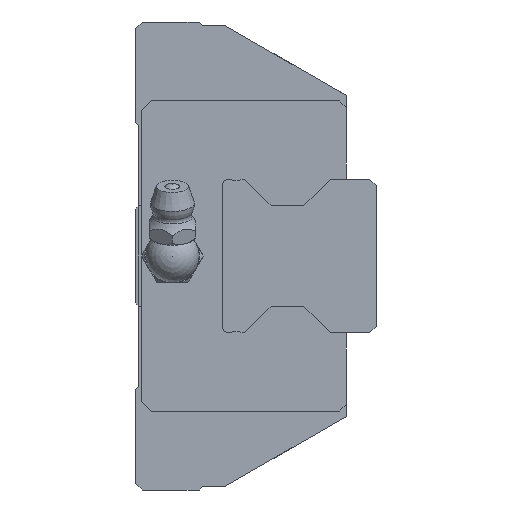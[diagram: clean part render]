
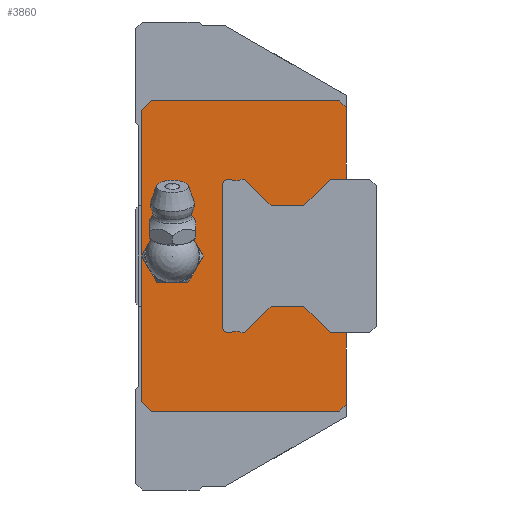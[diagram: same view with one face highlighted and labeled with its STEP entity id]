
A CAD part, left-side view. The second image highlights one B-rep face of the part: STEP entity #3860.
In plain terms, the highlighted planar face has unit normal (-1, 0, 0).
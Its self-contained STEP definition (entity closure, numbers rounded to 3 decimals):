
#183=CIRCLE('',#4178,3.);
#184=CIRCLE('',#4179,1.);
#185=CIRCLE('',#4180,1.);
#630=ORIENTED_EDGE('',*,*,#1551,.T.);
#631=ORIENTED_EDGE('',*,*,#1552,.T.);
#632=ORIENTED_EDGE('',*,*,#1541,.F.);
#633=ORIENTED_EDGE('',*,*,#1509,.F.);
#634=ORIENTED_EDGE('',*,*,#1505,.F.);
#635=ORIENTED_EDGE('',*,*,#1498,.F.);
#636=ORIENTED_EDGE('',*,*,#1530,.F.);
#637=ORIENTED_EDGE('',*,*,#1485,.F.);
#638=ORIENTED_EDGE('',*,*,#1519,.F.);
#639=ORIENTED_EDGE('',*,*,#1516,.F.);
#640=ORIENTED_EDGE('',*,*,#1543,.F.);
#641=ORIENTED_EDGE('',*,*,#1553,.T.);
#642=ORIENTED_EDGE('',*,*,#1554,.T.);
#643=ORIENTED_EDGE('',*,*,#1555,.T.);
#644=ORIENTED_EDGE('',*,*,#1556,.T.);
#645=ORIENTED_EDGE('',*,*,#1557,.T.);
#646=ORIENTED_EDGE('',*,*,#1558,.T.);
#647=ORIENTED_EDGE('',*,*,#1559,.T.);
#648=ORIENTED_EDGE('',*,*,#1560,.T.);
#649=ORIENTED_EDGE('',*,*,#1561,.T.);
#650=ORIENTED_EDGE('',*,*,#1562,.T.);
#651=ORIENTED_EDGE('',*,*,#1563,.T.);
#652=ORIENTED_EDGE('',*,*,#1564,.T.);
#653=ORIENTED_EDGE('',*,*,#1565,.T.);
#654=ORIENTED_EDGE('',*,*,#1566,.T.);
#655=ORIENTED_EDGE('',*,*,#1567,.T.);
#656=ORIENTED_EDGE('',*,*,#1568,.T.);
#1485=EDGE_CURVE('',#1978,#1979,#2346,.T.);
#1498=EDGE_CURVE('',#1990,#1991,#2359,.T.);
#1505=EDGE_CURVE('',#1991,#1996,#2365,.T.);
#1509=EDGE_CURVE('',#1996,#1998,#2369,.T.);
#1516=EDGE_CURVE('',#2004,#2005,#2376,.T.);
#1519=EDGE_CURVE('',#2005,#1978,#2379,.T.);
#1530=EDGE_CURVE('',#1979,#1990,#2385,.T.);
#1541=EDGE_CURVE('',#1998,#2014,#2394,.T.);
#1543=EDGE_CURVE('',#2019,#2004,#2396,.T.);
#1551=EDGE_CURVE('',#2026,#2026,#183,.T.);
#1552=EDGE_CURVE('',#2027,#2014,#2402,.T.);
#1553=EDGE_CURVE('',#2019,#2028,#2403,.T.);
#1554=EDGE_CURVE('',#2028,#2029,#2404,.T.);
#1555=EDGE_CURVE('',#2029,#2030,#2405,.T.);
#1556=EDGE_CURVE('',#2030,#2031,#2406,.T.);
#1557=EDGE_CURVE('',#2031,#2032,#2407,.T.);
#1558=EDGE_CURVE('',#2032,#2033,#2408,.T.);
#1559=EDGE_CURVE('',#2033,#2034,#2409,.T.);
#1560=EDGE_CURVE('',#2034,#2035,#184,.T.);
#1561=EDGE_CURVE('',#2035,#2036,#2410,.T.);
#1562=EDGE_CURVE('',#2036,#2037,#185,.T.);
#1563=EDGE_CURVE('',#2037,#2038,#2411,.T.);
#1564=EDGE_CURVE('',#2038,#2039,#2412,.T.);
#1565=EDGE_CURVE('',#2039,#2040,#2413,.T.);
#1566=EDGE_CURVE('',#2040,#2041,#2414,.T.);
#1567=EDGE_CURVE('',#2041,#2042,#2415,.T.);
#1568=EDGE_CURVE('',#2042,#2027,#2416,.T.);
#1978=VERTEX_POINT('',#5911);
#1979=VERTEX_POINT('',#5913);
#1990=VERTEX_POINT('',#5937);
#1991=VERTEX_POINT('',#5939);
#1996=VERTEX_POINT('',#5953);
#1998=VERTEX_POINT('',#5960);
#2004=VERTEX_POINT('',#5973);
#2005=VERTEX_POINT('',#5975);
#2014=VERTEX_POINT('',#6010);
#2019=VERTEX_POINT('',#6024);
#2026=VERTEX_POINT('',#6041);
#2027=VERTEX_POINT('',#6043);
#2028=VERTEX_POINT('',#6045);
#2029=VERTEX_POINT('',#6047);
#2030=VERTEX_POINT('',#6049);
#2031=VERTEX_POINT('',#6051);
#2032=VERTEX_POINT('',#6053);
#2033=VERTEX_POINT('',#6055);
#2034=VERTEX_POINT('',#6057);
#2035=VERTEX_POINT('',#6059);
#2036=VERTEX_POINT('',#6061);
#2037=VERTEX_POINT('',#6063);
#2038=VERTEX_POINT('',#6065);
#2039=VERTEX_POINT('',#6067);
#2040=VERTEX_POINT('',#6069);
#2041=VERTEX_POINT('',#6071);
#2042=VERTEX_POINT('',#6073);
#2346=LINE('',#5912,#2730);
#2359=LINE('',#5938,#2743);
#2365=LINE('',#5952,#2749);
#2369=LINE('',#5959,#2753);
#2376=LINE('',#5974,#2760);
#2379=LINE('',#5979,#2763);
#2385=LINE('',#6000,#2769);
#2394=LINE('',#6021,#2778);
#2396=LINE('',#6026,#2780);
#2402=LINE('',#6042,#2786);
#2403=LINE('',#6044,#2787);
#2404=LINE('',#6046,#2788);
#2405=LINE('',#6048,#2789);
#2406=LINE('',#6050,#2790);
#2407=LINE('',#6052,#2791);
#2408=LINE('',#6054,#2792);
#2409=LINE('',#6056,#2793);
#2410=LINE('',#6060,#2794);
#2411=LINE('',#6064,#2795);
#2412=LINE('',#6066,#2796);
#2413=LINE('',#6068,#2797);
#2414=LINE('',#6070,#2798);
#2415=LINE('',#6072,#2799);
#2416=LINE('',#6074,#2800);
#2730=VECTOR('',#4757,1000.);
#2743=VECTOR('',#4772,1000.);
#2749=VECTOR('',#4784,1000.);
#2753=VECTOR('',#4790,1000.);
#2760=VECTOR('',#4799,1000.);
#2763=VECTOR('',#4804,1000.);
#2769=VECTOR('',#4830,1000.);
#2778=VECTOR('',#4847,1000.);
#2780=VECTOR('',#4851,1000.);
#2786=VECTOR('',#4865,1000.);
#2787=VECTOR('',#4866,1000.);
#2788=VECTOR('',#4867,1000.);
#2789=VECTOR('',#4868,1000.);
#2790=VECTOR('',#4869,1000.);
#2791=VECTOR('',#4870,1000.);
#2792=VECTOR('',#4871,1000.);
#2793=VECTOR('',#4872,1000.);
#2794=VECTOR('',#4875,1000.);
#2795=VECTOR('',#4878,1000.);
#2796=VECTOR('',#4879,1000.);
#2797=VECTOR('',#4880,1000.);
#2798=VECTOR('',#4881,1000.);
#2799=VECTOR('',#4882,1000.);
#2800=VECTOR('',#4883,1000.);
#3078=EDGE_LOOP('',(#630));
#3079=EDGE_LOOP('',(#631,#632,#633,#634,#635,#636,#637,#638,#639,#640,#641,
#642,#643,#644,#645,#646,#647,#648,#649,#650,#651,#652,#653,#654,#655,#656));
#3405=FACE_BOUND('',#3078,.T.);
#3406=FACE_BOUND('',#3079,.T.);
#3675=PLANE('',#4177);
#3860=ADVANCED_FACE('',(#3405,#3406),#3675,.F.);
#4177=AXIS2_PLACEMENT_3D('',#6039,#4861,#4862);
#4178=AXIS2_PLACEMENT_3D('',#6040,#4863,#4864);
#4179=AXIS2_PLACEMENT_3D('',#6058,#4873,#4874);
#4180=AXIS2_PLACEMENT_3D('',#6062,#4876,#4877);
#4757=DIRECTION('',(0.,0.707,0.707));
#4772=DIRECTION('',(0.,-0.707,0.707));
#4784=DIRECTION('',(0.,-1.,0.));
#4790=DIRECTION('',(0.,-0.707,-0.707));
#4799=DIRECTION('',(0.,0.707,-0.707));
#4804=DIRECTION('',(0.,1.,0.));
#4830=DIRECTION('',(0.,0.,1.));
#4847=DIRECTION('',(0.,0.,-1.));
#4851=DIRECTION('',(0.,0.,-1.));
#4861=DIRECTION('',(1.,0.,0.));
#4862=DIRECTION('',(0.,0.,-1.));
#4863=DIRECTION('',(1.,0.,0.));
#4864=DIRECTION('',(0.,0.,-1.));
#4865=DIRECTION('',(0.,-1.,0.));
#4866=DIRECTION('',(0.,1.,0.));
#4867=DIRECTION('',(0.,0.707,0.707));
#4868=DIRECTION('',(0.,1.,0.));
#4869=DIRECTION('',(0.,0.707,-0.707));
#4870=DIRECTION('',(0.,1.,0.));
#4871=DIRECTION('',(0.,0.707,0.707));
#4872=DIRECTION('',(0.,1.,0.));
#4873=DIRECTION('',(1.,0.,0.));
#4874=DIRECTION('',(0.,0.,-1.));
#4875=DIRECTION('',(0.,0.,1.));
#4876=DIRECTION('',(1.,0.,0.));
#4877=DIRECTION('',(0.,0.,-1.));
#4878=DIRECTION('',(0.,-1.,0.));
#4879=DIRECTION('',(0.,-0.707,0.707));
#4880=DIRECTION('',(0.,-1.,0.));
#4881=DIRECTION('',(0.,-0.707,-0.707));
#4882=DIRECTION('',(0.,-1.,0.));
#4883=DIRECTION('',(0.,-0.707,0.707));
#5911=CARTESIAN_POINT('',(-57.55,29.2,-23.2));
#5912=CARTESIAN_POINT('',(-57.55,29.2,-23.2));
#5913=CARTESIAN_POINT('',(-57.55,30.7,-21.7));
#5937=CARTESIAN_POINT('',(-57.55,30.7,21.7));
#5938=CARTESIAN_POINT('',(-57.55,30.7,21.7));
#5939=CARTESIAN_POINT('',(-57.55,29.2,23.2));
#5952=CARTESIAN_POINT('',(-57.55,29.2,23.2));
#5953=CARTESIAN_POINT('',(-57.55,1.,23.2));
#5959=CARTESIAN_POINT('',(-57.55,1.,23.2));
#5960=CARTESIAN_POINT('',(-57.55,0.,22.2));
#5973=CARTESIAN_POINT('',(-57.55,0.,-22.2));
#5974=CARTESIAN_POINT('',(-57.55,0.,-22.2));
#5975=CARTESIAN_POINT('',(-57.55,1.,-23.2));
#5979=CARTESIAN_POINT('',(-57.55,1.,-23.2));
#6000=CARTESIAN_POINT('',(-57.55,30.7,-21.7));
#6010=CARTESIAN_POINT('',(-57.55,0.,11.5));
#6021=CARTESIAN_POINT('',(-57.55,0.,22.2));
#6024=CARTESIAN_POINT('',(-57.55,0.,-11.5));
#6026=CARTESIAN_POINT('',(-57.55,0.,22.2));
#6039=CARTESIAN_POINT('',(-57.55,0.,0.));
#6040=CARTESIAN_POINT('',(-57.55,26.,0.));
#6041=CARTESIAN_POINT('',(-57.55,26.,-3.));
#6042=CARTESIAN_POINT('',(-57.55,2.35,11.5));
#6043=CARTESIAN_POINT('',(-57.55,2.35,11.5));
#6044=CARTESIAN_POINT('',(-57.55,-3.5,-11.5));
#6045=CARTESIAN_POINT('',(-57.55,2.35,-11.5));
#6046=CARTESIAN_POINT('',(-57.55,2.35,-11.5));
#6047=CARTESIAN_POINT('',(-57.55,6.35,-7.5));
#6048=CARTESIAN_POINT('',(-57.55,6.35,-7.5));
#6049=CARTESIAN_POINT('',(-57.55,11.25,-7.5));
#6050=CARTESIAN_POINT('',(-57.55,11.25,-7.5));
#6051=CARTESIAN_POINT('',(-57.55,15.25,-11.5));
#6052=CARTESIAN_POINT('',(-57.55,15.25,-11.5));
#6053=CARTESIAN_POINT('',(-57.55,15.76,-11.5));
#6054=CARTESIAN_POINT('',(-57.55,15.76,-11.5));
#6055=CARTESIAN_POINT('',(-57.55,16.01,-11.25));
#6056=CARTESIAN_POINT('',(-57.55,16.01,-11.25));
#6057=CARTESIAN_POINT('',(-57.55,16.839,-11.25));
#6058=CARTESIAN_POINT('',(-57.55,17.5,-10.5));
#6059=CARTESIAN_POINT('',(-57.55,18.5,-10.5));
#6060=CARTESIAN_POINT('',(-57.55,18.5,-10.5));
#6061=CARTESIAN_POINT('',(-57.55,18.5,10.5));
#6062=CARTESIAN_POINT('',(-57.55,17.5,10.5));
#6063=CARTESIAN_POINT('',(-57.55,16.839,11.25));
#6064=CARTESIAN_POINT('',(-57.55,16.839,11.25));
#6065=CARTESIAN_POINT('',(-57.55,16.01,11.25));
#6066=CARTESIAN_POINT('',(-57.55,16.01,11.25));
#6067=CARTESIAN_POINT('',(-57.55,15.76,11.5));
#6068=CARTESIAN_POINT('',(-57.55,15.76,11.5));
#6069=CARTESIAN_POINT('',(-57.55,15.25,11.5));
#6070=CARTESIAN_POINT('',(-57.55,15.25,11.5));
#6071=CARTESIAN_POINT('',(-57.55,11.25,7.5));
#6072=CARTESIAN_POINT('',(-57.55,11.25,7.5));
#6073=CARTESIAN_POINT('',(-57.55,6.35,7.5));
#6074=CARTESIAN_POINT('',(-57.55,6.35,7.5));
